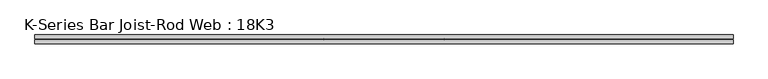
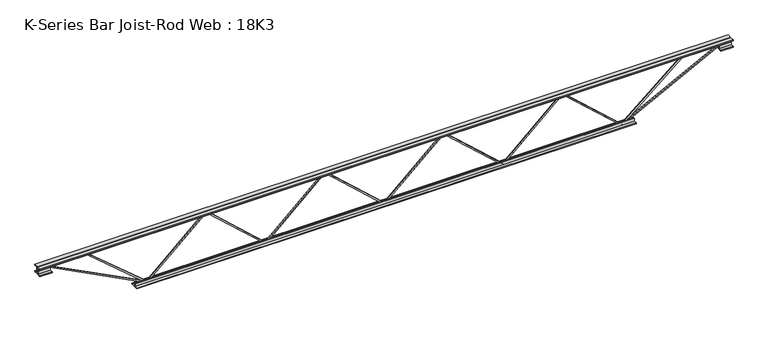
"""IFC4 building model written with IfcOpenShell, lengths in millimetres: beam geometry, K-Series Bar Joist-Rod Web : 18K3."""

import ifcopenshell
import ifcopenshell.guid

model = None  # the IFC model being written
_history = None  # IfcOwnerHistory: only IFC2X3 demands one
_inside = {}  # id of a spatial element -> (the spatial element, [elements in it])
_under = {}  # id of a project, library or spatial element -> (it, [spatial elements below it])
_declared = {}  # id of a project -> (the project, [libraries it declares])
_typed = {}  # id of a type object -> (the type object, [elements of that type])
_made_of = {}  # id of a material, layer set ... -> (it, [elements and type objects made of it])


def new_model(schema):
    """Start an empty IFC model of exactly this schema.

    Asked for "IFC4X3", IfcOpenShell would pick the latest addendum, in which some entities
    have other attributes; the version numbers below select the first issue.
    IFC2X3 requires an IfcOwnerHistory on every rooted entity: one is made here for all.
    """
    global model, _history
    if schema == "IFC4X3":
        model = ifcopenshell.file(schema_version=(4, 3, 0, 0))
    else:
        model = ifcopenshell.file(schema=schema)
    _inside.clear()
    _under.clear()
    _declared.clear()
    _typed.clear()
    _made_of.clear()
    _history = None
    if model.schema == "IFC2X3":
        org = make("IfcOrganization", Name="unknown")
        user = make(
            "IfcPersonAndOrganization",
            ThePerson=make("IfcPerson", FamilyName="unknown"),
            TheOrganization=org,
        )
        app = make(
            "IfcApplication",
            ApplicationDeveloper=org,
            Version="unknown",
            ApplicationFullName="unknown",
            ApplicationIdentifier="unknown",
        )
        _history = make(
            "IfcOwnerHistory",
            OwningUser=user,
            OwningApplication=app,
            ChangeAction="ADDED",
            CreationDate=0,
        )
    return model


def make(cls, **values):
    """One entity of the class cls with the attributes given. An attribute that is None is left unset."""
    return model.create_entity(
        cls, **{name: value for name, value in values.items() if value is not None}
    )


def rooted(cls, **values):
    """An entity with a GlobalId (a new one), such as an element, a storey or a relation."""
    return make(cls, GlobalId=ifcopenshell.guid.new(), OwnerHistory=_history, **values)


def si_unit(unit_type, name, prefix=None):
    """IfcSIUnit, for example si_unit("LENGTHUNIT", "METRE", prefix="MILLI")."""
    return make("IfcSIUnit", UnitType=unit_type, Prefix=prefix, Name=name)


def assignment(units):
    """IfcUnitAssignment: the units of a project."""
    return None if units is None else make("IfcUnitAssignment", Units=units)


def point(xyz):
    """IfcCartesianPoint."""
    return None if xyz is None else make("IfcCartesianPoint", Coordinates=xyz)


def direction(xyz):
    """IfcDirection."""
    return None if xyz is None else make("IfcDirection", DirectionRatios=xyz)


def frame(location, z_axis=None, x_axis=None):
    """IfcAxis2Placement3D, a coordinate frame: its origin and axes. An axis left out is left unset."""
    return make(
        "IfcAxis2Placement3D",
        Location=point(location),
        Axis=direction(z_axis),
        RefDirection=direction(x_axis),
    )


def origin():
    """The frame at (0, 0, 0) with its axes left unset."""
    return frame((0.0, 0.0, 0.0))


def place(relative_to, where):
    """IfcLocalPlacement: puts the frame where relative to a parent placement (None: the world)."""
    return make(
        "IfcLocalPlacement", PlacementRelTo=relative_to, RelativePlacement=where
    )


def context(
    kind, dimensions, precision=None, world=None, true_north=None, identifier=None
):
    """IfcGeometricRepresentationContext, for example the 3D "Model" context."""
    return make(
        "IfcGeometricRepresentationContext",
        ContextIdentifier=identifier,
        ContextType=kind,
        CoordinateSpaceDimension=dimensions,
        Precision=precision,
        WorldCoordinateSystem=world,
        TrueNorth=true_north,
    )


def project(units=None, contexts=None):
    """IfcProject with its units and contexts."""
    return rooted(
        "IfcProject",
        Name="project",
        RepresentationContexts=contexts,
        UnitsInContext=assignment(units),
    )


def spatial(cls, under=None, at=None, **own):
    """A site, building, storey or space (cls), placed at a placement, below another one or the project."""
    s = rooted(cls, ObjectPlacement=at, **own)
    if under is not None:
        _under.setdefault(under.id(), (under, []))[1].append(s)
    return s


def polyline(points):
    """IfcPolyline through the points."""
    return make("IfcPolyline", Points=[point(p) for p in points])


def outline(outer, holes=None, kind="AREA"):
    """IfcArbitraryClosedProfileDef: a profile drawn as a closed curve; with holes, ...WithVoids."""
    if holes is None:
        return make("IfcArbitraryClosedProfileDef", ProfileType=kind, OuterCurve=outer)
    return make(
        "IfcArbitraryProfileDefWithVoids",
        ProfileType=kind,
        OuterCurve=outer,
        InnerCurves=holes,
    )


def extrude(swept, where, along, depth):
    """IfcExtrudedAreaSolid: the profile swept, set in the frame where, extruded along a direction by depth."""
    return make(
        "IfcExtrudedAreaSolid",
        SweptArea=swept,
        Position=where,
        ExtrudedDirection=direction(along),
        Depth=depth,
    )


def shape(context_of_items, identifier, shape_type, items):
    """IfcShapeRepresentation: the items that make up one representation, for example the "Body"."""
    return make(
        "IfcShapeRepresentation",
        ContextOfItems=context_of_items,
        RepresentationIdentifier=identifier,
        RepresentationType=shape_type,
        Items=items,
    )


def source(mapping_origin, context_of_items, identifier, shape_type, items):
    """IfcRepresentationMap: a shape defined once, which mapped items show again and again."""
    return make(
        "IfcRepresentationMap",
        MappingOrigin=mapping_origin,
        MappedRepresentation=shape(context_of_items, identifier, shape_type, items),
    )


def transform(
    local_origin,
    x_axis=None,
    y_axis=None,
    z_axis=None,
    scale=None,
    scale2=None,
    scale3=None,
    uniform=True,
):
    """IfcCartesianTransformationOperator3D, or its non-uniform kind. x_axis, y_axis, z_axis: its Axis1, 2, 3."""
    if uniform:
        return make(
            "IfcCartesianTransformationOperator3D",
            Axis1=direction(x_axis),
            Axis2=direction(y_axis),
            LocalOrigin=point(local_origin),
            Scale=scale,
            Axis3=direction(z_axis),
        )
    return make(
        "IfcCartesianTransformationOperator3DnonUniform",
        Axis1=direction(x_axis),
        Axis2=direction(y_axis),
        LocalOrigin=point(local_origin),
        Scale=scale,
        Axis3=direction(z_axis),
        Scale2=scale2,
        Scale3=scale3,
    )


def mapped(mapping_source, mapping_target):
    """IfcMappedItem: shows the shape of a source again, moved by a transform."""
    return make(
        "IfcMappedItem", MappingSource=mapping_source, MappingTarget=mapping_target
    )


def made_of(thing, what):
    """Note that an element or type object is made of a material, layer set ...; save() writes the relation."""
    if what is not None:
        _made_of.setdefault(what.id(), (what, []))[1].append(thing)
    return thing


def element(
    cls,
    number,
    at=None,
    inside=None,
    cuts=None,
    type_object=None,
    material=None,
    context=None,
    identifier="Body",
    shape_type=None,
    held_by="IfcProductDefinitionShape",
    body=None,
    shapes=None,
    **own,
):
    """One element of the class cls, such as IfcWall. Its Tag is "e" and its number.

    at: its placement. inside: the storey or other place that contains it. cuts: it is an
    opening in that element (IfcRelVoidsElement). A single representation is given by context,
    identifier, shape_type and body (its items); several are given by shapes. held_by: the class
    of the entity that holds the representations. save() writes the other relations.
    """
    e = rooted(cls, Tag="e%d" % number, ObjectPlacement=at, **own)
    if body is not None:
        shapes = [shape(context, identifier, shape_type, body)]
    if shapes is not None:
        e.Representation = make(held_by, Representations=shapes)
    if inside is not None:
        _inside.setdefault(inside.id(), (inside, []))[1].append(e)
    if cuts is not None:
        rooted(
            "IfcRelVoidsElement", RelatingBuildingElement=cuts, RelatedOpeningElement=e
        )
    if type_object is not None:
        _typed.setdefault(type_object.id(), (type_object, []))[1].append(e)
    return made_of(e, material)


def aggregate(whole, parts):
    """IfcRelAggregates: a whole, such as a stair, and the parts it consists of."""
    return rooted("IfcRelAggregates", RelatingObject=whole, RelatedObjects=parts)


def save(model, path):
    """Write the relations noted so far, then the file.

    IfcRelAggregates (storeys below a building ...), IfcRelContainedInSpatialStructure (elements
    in a storey), IfcRelDefinesByType, IfcRelAssociatesMaterial and IfcRelDeclares: one each for
    every whole, place, type object, material and project.
    """
    for whole, parts in _under.values():
        aggregate(whole, parts)
    for where, things in _inside.values():
        rooted(
            "IfcRelContainedInSpatialStructure",
            RelatedElements=things,
            RelatingStructure=where,
        )
    for kind, things in _typed.values():
        rooted("IfcRelDefinesByType", RelatedObjects=things, RelatingType=kind)
    for what, things in _made_of.values():
        rooted("IfcRelAssociatesMaterial", RelatedObjects=things, RelatingMaterial=what)
    for by, libraries in _declared.values():
        rooted("IfcRelDeclares", RelatingContext=by, RelatedDefinitions=libraries)
    model.write(path)


def k_series_bar_joist_rod_web_18k3_721e3302(model_context):
    return source(origin(), model_context, "Body", "SweptSolid", [
        extrude(outline(polyline([(-217.4875, 0.0), (-227.0125, 0.0), (-227.0125, 5.009601), (217.4875, 496.340851), (217.4875, 499.021649), (-227.0125, 990.352899), (-227.0125, 995.3625), (-217.4875, 995.3625), (-217.4875, 994.022101), (227.0125, 502.690851), (227.0125, 492.671649), (-217.4875, 1.340399), (-217.4875, 0.0)])), frame((0.0, -4.7625, 0.0), z_axis=(0.0, 1.0, 0.0), x_axis=(0.0, 0.0, 1.0)), (0.0, 0.0, 1.0), 9.525),
        extrude(outline(polyline([(-217.4875, -995.3625), (-227.0125, -995.3625), (-227.0125, -990.352899), (217.4875, -499.021649), (217.4875, -496.340851), (-227.0125, -5.009601), (-227.0125, 0.0), (-217.4875, 0.0), (-217.4875, -1.340399), (227.0125, -492.671649), (227.0125, -502.690851), (-217.4875, -994.022101), (-217.4875, -995.3625)])), frame((0.0, -4.7625, 0.0), z_axis=(0.0, 1.0, 0.0), x_axis=(0.0, 0.0, 1.0)), (0.0, 0.0, 1.0), 9.525),
        extrude(outline(polyline([(-217.4875, 995.3625), (-227.0125, 995.3625), (-227.0125, 1000.372101), (217.4875, 1491.703351), (217.4875, 1494.384149), (-227.0125, 1985.715399), (-227.0125, 1990.725), (-217.4875, 1990.725), (-217.4875, 1989.384601), (227.0125, 1498.053351), (227.0125, 1488.034149), (-217.4875, 996.702899), (-217.4875, 995.3625)])), frame((0.0, -4.7625, 0.0), z_axis=(0.0, 1.0, 0.0), x_axis=(0.0, 0.0, 1.0)), (0.0, 0.0, 1.0), 9.525),
        extrude(outline(polyline([(-217.4875, -1990.725), (-227.0125, -1990.725), (-227.0125, -1985.715399), (217.4875, -1494.384149), (217.4875, -1491.703351), (-227.0125, -1000.372101), (-227.0125, -995.3625), (-217.4875, -995.3625), (-217.4875, -996.702899), (227.0125, -1488.034149), (227.0125, -1498.053351), (-217.4875, -1989.384601), (-217.4875, -1990.725)])), frame((0.0, -4.7625, 0.0), z_axis=(0.0, 1.0, 0.0), x_axis=(0.0, 0.0, 1.0)), (0.0, 0.0, 1.0), 9.525),
        extrude(outline(polyline([(4.7625, 228.6), (36.5125, 228.6), (36.5125, 222.25), (11.1125, 222.25), (11.1125, 196.85), (4.7625, 196.85), (4.7625, 228.6)])), frame((-2905.125, 0.0, 0.0), z_axis=(1.0, 0.0, 0.0), x_axis=(0.0, 1.0, 0.0)), (0.0, 0.0, 1.0), 5810.25),
        extrude(outline(polyline([(-4.7625, 228.6), (-4.7625, 196.85), (-11.1125, 196.85), (-11.1125, 222.25), (-36.5125, 222.25), (-36.5125, 228.6), (-4.7625, 228.6)])), frame((-2905.125, 0.0, 0.0), z_axis=(1.0, 0.0, 0.0), x_axis=(0.0, 1.0, 0.0)), (0.0, 0.0, 1.0), 5810.25),
        extrude(outline(polyline([(-4.7625, 165.1), (-36.5125, 165.1), (-36.5125, 171.45), (-11.1125, 171.45), (-11.1125, 196.85), (-4.7625, 196.85), (-4.7625, 165.1)])), frame((-2905.125, 0.0, 0.0), z_axis=(1.0, 0.0, 0.0), x_axis=(0.0, 1.0, 0.0)), (0.0, 0.0, 1.0), 101.6),
        extrude(outline(polyline([(36.5125, 165.1), (4.7625, 165.1), (4.7625, 196.85), (11.1125, 196.85), (11.1125, 171.45), (36.5125, 171.45), (36.5125, 165.1)])), frame((-2905.125, 0.0, 0.0), z_axis=(1.0, 0.0, 0.0), x_axis=(0.0, 1.0, 0.0)), (0.0, 0.0, 1.0), 101.6),
        extrude(outline(polyline([(4.7625, 165.1), (4.7625, 196.85), (11.1125, 196.85), (11.1125, 171.45), (36.5125, 171.45), (36.5125, 165.1), (4.7625, 165.1)])), frame((2803.525, 0.0, 0.0), z_axis=(1.0, 0.0, 0.0), x_axis=(0.0, 1.0, 0.0)), (0.0, 0.0, 1.0), 101.6),
        extrude(outline(polyline([(-4.7625, 165.1), (-36.5125, 165.1), (-36.5125, 171.45), (-11.1125, 171.45), (-11.1125, 196.85), (-4.7625, 196.85), (-4.7625, 165.1)])), frame((2803.525, 0.0, 0.0), z_axis=(1.0, 0.0, 0.0), x_axis=(0.0, 1.0, 0.0)), (0.0, 0.0, 1.0), 101.6),
        extrude(outline(polyline([(4.7625, -228.6), (4.7625, -196.85), (11.1125, -196.85), (11.1125, -222.25), (36.5125, -222.25), (36.5125, -228.6), (4.7625, -228.6)])), frame((-2092.325, 0.0, 0.0), z_axis=(1.0, 0.0, 0.0), x_axis=(0.0, 1.0, 0.0)), (0.0, 0.0, 1.0), 4184.65),
        extrude(outline(polyline([(-4.7625, -228.6), (-36.5125, -228.6), (-36.5125, -222.25), (-11.1125, -222.25), (-11.1125, -196.85), (-4.7625, -196.85), (-4.7625, -228.6)])), frame((-2092.325, 0.0, 0.0), z_axis=(1.0, 0.0, 0.0), x_axis=(0.0, 1.0, 0.0)), (0.0, 0.0, 1.0), 4184.65),
        extrude(outline(polyline([(0.0, -9.525), (0.0, 0.0), (914.4881902, 0.0), (914.4881902, -9.525), (0.0, -9.525)])), frame((-2805.707602, 4.7625, 192.6170749), z_axis=(0.45828913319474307, 0.0, 0.8888031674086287), x_axis=(0.8888031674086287, 0.0, -0.45828913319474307)), (0.0, 0.0, 1.0), 9.525),
        extrude(outline(polyline([(0.0, -9.525), (0.0, 0.0), (650.6392523, 0.0), (650.6392523, -9.525), (0.0, -9.525)])), frame((-2491.4739465, 4.7625, 193.2071104), z_axis=(0.6441357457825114, 0.0, 0.7649111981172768), x_axis=(0.7649111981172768, 0.0, -0.6441357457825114)), (0.0, 0.0, 1.0), 9.525),
        extrude(outline(polyline([(0.0, -9.525), (0.0, 0.0), (914.4881902, 0.0), (914.4881902, -9.525), (0.0, -9.525)])), frame((2805.707602, -4.7625, 192.6170749), z_axis=(-0.45828913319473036, 0.0, 0.8888031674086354), x_axis=(-0.8888031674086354, 0.0, -0.45828913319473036)), (0.0, 0.0, 1.0), 9.525),
        extrude(outline(polyline([(0.0, -9.525), (0.0, 0.0), (650.6392523, 0.0), (650.6392523, -9.525), (0.0, -9.525)])), frame((2491.4739465, -4.7625, 193.2071104), z_axis=(-0.6441357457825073, 0.0, 0.7649111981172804), x_axis=(-0.7649111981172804, 0.0, -0.6441357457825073)), (0.0, 0.0, 1.0), 9.525),
    ])


if __name__ == "__main__":
    model = new_model("IFC4")
    model_context = context("Model", 3, world=origin())
    ifc_project = project(units=[si_unit("LENGTHUNIT", "METRE", prefix="MILLI")], contexts=[model_context])
    site = spatial("IfcSite", under=ifc_project)
    building = spatial("IfcBuilding", under=site)
    placement = place(None, origin())
    k_series_bar_joist_rod_web_18k3_shape = k_series_bar_joist_rod_web_18k3_721e3302(model_context)
    element("IfcBeam", 1, ObjectType="K-Series Bar Joist-Rod Web : 18K3", at=placement, inside=building, context=model_context, shape_type="MappedRepresentation", body=[
        mapped(k_series_bar_joist_rod_web_18k3_shape, transform((0.0, 0.0, 0.0), x_axis=(1.0, 0.0, 0.0), y_axis=(0.0, 1.0, 0.0), z_axis=(0.0, 0.0, 1.0))),
    ])
    save(model, "model.ifc")
